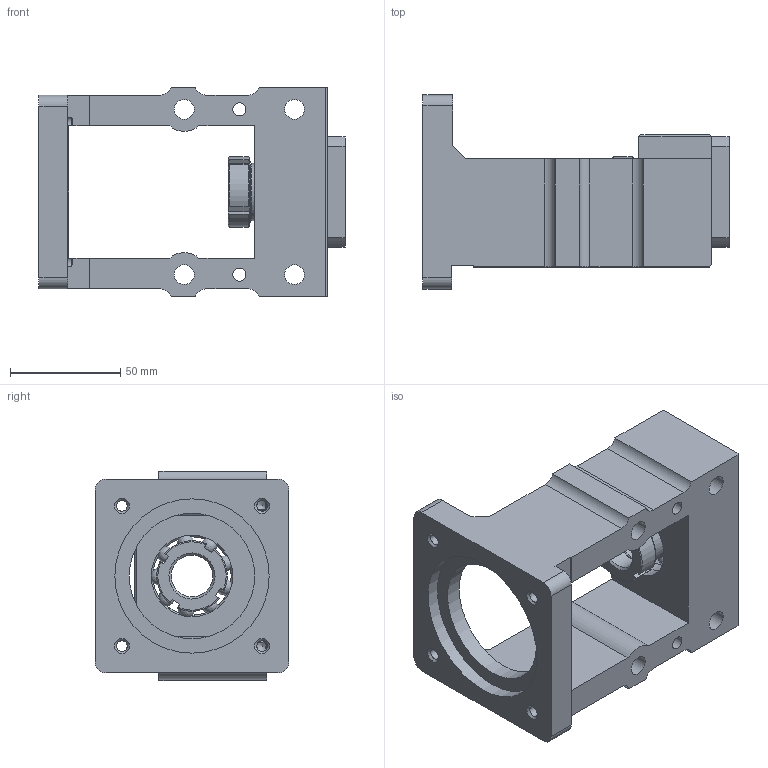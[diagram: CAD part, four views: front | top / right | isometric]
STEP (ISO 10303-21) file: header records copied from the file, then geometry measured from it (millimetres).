
FILE_DESCRIPTION(('STEP AP214'), '1');
FILE_NAME('HM20-80C5 - ﾊ煇鳫 HM10', '', ('UNSPECIFIED'), ('UNSPECIFIED'), 'ASCON STEP Converter 1.6', 'ASCON Math Kernel', '');
FILE_SCHEMA(('AUTOMOTIVE_DESIGN { 1 0 10303 214 3 1 1}'));
Length unit declared in the file: millimetre
Products named in the file (1): HM20-080C5
Bounding box: 139 x 88 x 95 mm (x, y, z)
Volume: 328017.1 mm3; surface area: 97697.6 mm2
Topology: 31 solids, 31 shells, 314 faces, 790 edges, 509 vertices
Faces by surface type: plane 144, cylinder 82, cone 46, torus 24, sphere 18
Full cylindrical faces by diameter (mm): 3.242 x4, 4.917 x4, 5 x4, 6 x6, 6.5 x6, 9 x4, 10 x4, 11 x4, 14 x4, 18.917 x1, 20 x4, 26 x2, 26.435 x4, 27.5 x1, 35.565 x2, 37 x2, 42 x4, 57 x1, 70 x1
Entity records: 12245 total; most frequent: CARTESIAN_POINT 2568, DIRECTION 1485, ORIENTED_EDGE 1204, AXIS2_PLACEMENT_3D 614, EDGE_CURVE 602, EDGE_LOOP 481, VERTEX_POINT 463, COLOUR_RGB 345
